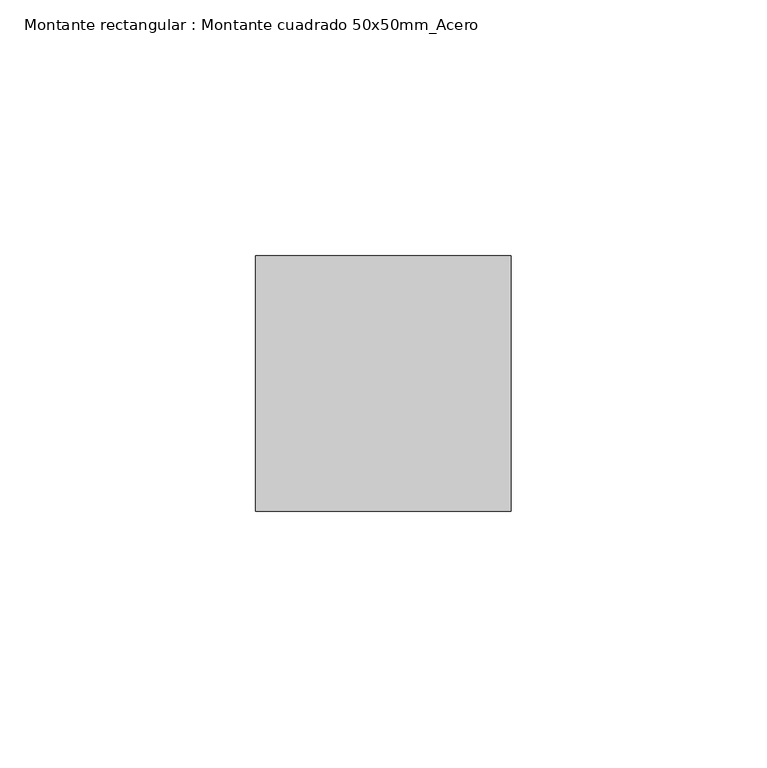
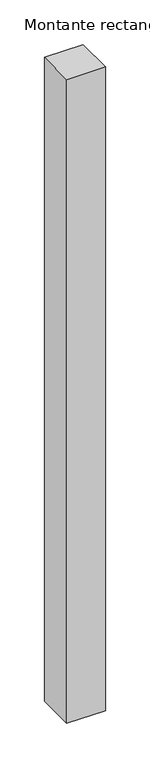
"""IFC4 building model written with IfcOpenShell, lengths in millimetres: member geometry, Montante rectangular : Montante cuadrado 50x50mm_Acero."""

import ifcopenshell
import ifcopenshell.guid

model = None  # the IFC model being written
_history = None  # IfcOwnerHistory: only IFC2X3 demands one
_inside = {}  # id of a spatial element -> (the spatial element, [elements in it])
_under = {}  # id of a project, library or spatial element -> (it, [spatial elements below it])
_declared = {}  # id of a project -> (the project, [libraries it declares])
_typed = {}  # id of a type object -> (the type object, [elements of that type])
_made_of = {}  # id of a material, layer set ... -> (it, [elements and type objects made of it])


def new_model(schema):
    """Start an empty IFC model of exactly this schema.

    Asked for "IFC4X3", IfcOpenShell would pick the latest addendum, in which some entities
    have other attributes; the version numbers below select the first issue.
    IFC2X3 requires an IfcOwnerHistory on every rooted entity: one is made here for all.
    """
    global model, _history
    if schema == "IFC4X3":
        model = ifcopenshell.file(schema_version=(4, 3, 0, 0))
    else:
        model = ifcopenshell.file(schema=schema)
    _inside.clear()
    _under.clear()
    _declared.clear()
    _typed.clear()
    _made_of.clear()
    _history = None
    if model.schema == "IFC2X3":
        org = make("IfcOrganization", Name="unknown")
        user = make(
            "IfcPersonAndOrganization",
            ThePerson=make("IfcPerson", FamilyName="unknown"),
            TheOrganization=org,
        )
        app = make(
            "IfcApplication",
            ApplicationDeveloper=org,
            Version="unknown",
            ApplicationFullName="unknown",
            ApplicationIdentifier="unknown",
        )
        _history = make(
            "IfcOwnerHistory",
            OwningUser=user,
            OwningApplication=app,
            ChangeAction="ADDED",
            CreationDate=0,
        )
    return model


def make(cls, **values):
    """One entity of the class cls with the attributes given. An attribute that is None is left unset."""
    return model.create_entity(
        cls, **{name: value for name, value in values.items() if value is not None}
    )


def rooted(cls, **values):
    """An entity with a GlobalId (a new one), such as an element, a storey or a relation."""
    return make(cls, GlobalId=ifcopenshell.guid.new(), OwnerHistory=_history, **values)


def si_unit(unit_type, name, prefix=None):
    """IfcSIUnit, for example si_unit("LENGTHUNIT", "METRE", prefix="MILLI")."""
    return make("IfcSIUnit", UnitType=unit_type, Prefix=prefix, Name=name)


def assignment(units):
    """IfcUnitAssignment: the units of a project."""
    return None if units is None else make("IfcUnitAssignment", Units=units)


def point(xyz):
    """IfcCartesianPoint."""
    return None if xyz is None else make("IfcCartesianPoint", Coordinates=xyz)


def direction(xyz):
    """IfcDirection."""
    return None if xyz is None else make("IfcDirection", DirectionRatios=xyz)


def frame(location, z_axis=None, x_axis=None):
    """IfcAxis2Placement3D, a coordinate frame: its origin and axes. An axis left out is left unset."""
    return make(
        "IfcAxis2Placement3D",
        Location=point(location),
        Axis=direction(z_axis),
        RefDirection=direction(x_axis),
    )


def origin():
    """The frame at (0, 0, 0) with its axes left unset."""
    return frame((0.0, 0.0, 0.0))


def place(relative_to, where):
    """IfcLocalPlacement: puts the frame where relative to a parent placement (None: the world)."""
    return make(
        "IfcLocalPlacement", PlacementRelTo=relative_to, RelativePlacement=where
    )


def context(
    kind, dimensions, precision=None, world=None, true_north=None, identifier=None
):
    """IfcGeometricRepresentationContext, for example the 3D "Model" context."""
    return make(
        "IfcGeometricRepresentationContext",
        ContextIdentifier=identifier,
        ContextType=kind,
        CoordinateSpaceDimension=dimensions,
        Precision=precision,
        WorldCoordinateSystem=world,
        TrueNorth=true_north,
    )


def project(units=None, contexts=None):
    """IfcProject with its units and contexts."""
    return rooted(
        "IfcProject",
        Name="project",
        RepresentationContexts=contexts,
        UnitsInContext=assignment(units),
    )


def spatial(cls, under=None, at=None, **own):
    """A site, building, storey or space (cls), placed at a placement, below another one or the project."""
    s = rooted(cls, ObjectPlacement=at, **own)
    if under is not None:
        _under.setdefault(under.id(), (under, []))[1].append(s)
    return s


def polyline(points):
    """IfcPolyline through the points."""
    return make("IfcPolyline", Points=[point(p) for p in points])


def outline(outer, holes=None, kind="AREA"):
    """IfcArbitraryClosedProfileDef: a profile drawn as a closed curve; with holes, ...WithVoids."""
    if holes is None:
        return make("IfcArbitraryClosedProfileDef", ProfileType=kind, OuterCurve=outer)
    return make(
        "IfcArbitraryProfileDefWithVoids",
        ProfileType=kind,
        OuterCurve=outer,
        InnerCurves=holes,
    )


def extrude(swept, where, along, depth):
    """IfcExtrudedAreaSolid: the profile swept, set in the frame where, extruded along a direction by depth."""
    return make(
        "IfcExtrudedAreaSolid",
        SweptArea=swept,
        Position=where,
        ExtrudedDirection=direction(along),
        Depth=depth,
    )


def shape(context_of_items, identifier, shape_type, items):
    """IfcShapeRepresentation: the items that make up one representation, for example the "Body"."""
    return make(
        "IfcShapeRepresentation",
        ContextOfItems=context_of_items,
        RepresentationIdentifier=identifier,
        RepresentationType=shape_type,
        Items=items,
    )


def source(mapping_origin, context_of_items, identifier, shape_type, items):
    """IfcRepresentationMap: a shape defined once, which mapped items show again and again."""
    return make(
        "IfcRepresentationMap",
        MappingOrigin=mapping_origin,
        MappedRepresentation=shape(context_of_items, identifier, shape_type, items),
    )


def transform(
    local_origin,
    x_axis=None,
    y_axis=None,
    z_axis=None,
    scale=None,
    scale2=None,
    scale3=None,
    uniform=True,
):
    """IfcCartesianTransformationOperator3D, or its non-uniform kind. x_axis, y_axis, z_axis: its Axis1, 2, 3."""
    if uniform:
        return make(
            "IfcCartesianTransformationOperator3D",
            Axis1=direction(x_axis),
            Axis2=direction(y_axis),
            LocalOrigin=point(local_origin),
            Scale=scale,
            Axis3=direction(z_axis),
        )
    return make(
        "IfcCartesianTransformationOperator3DnonUniform",
        Axis1=direction(x_axis),
        Axis2=direction(y_axis),
        LocalOrigin=point(local_origin),
        Scale=scale,
        Axis3=direction(z_axis),
        Scale2=scale2,
        Scale3=scale3,
    )


def mapped(mapping_source, mapping_target):
    """IfcMappedItem: shows the shape of a source again, moved by a transform."""
    return make(
        "IfcMappedItem", MappingSource=mapping_source, MappingTarget=mapping_target
    )


def made_of(thing, what):
    """Note that an element or type object is made of a material, layer set ...; save() writes the relation."""
    if what is not None:
        _made_of.setdefault(what.id(), (what, []))[1].append(thing)
    return thing


def element(
    cls,
    number,
    at=None,
    inside=None,
    cuts=None,
    type_object=None,
    material=None,
    context=None,
    identifier="Body",
    shape_type=None,
    held_by="IfcProductDefinitionShape",
    body=None,
    shapes=None,
    **own,
):
    """One element of the class cls, such as IfcWall. Its Tag is "e" and its number.

    at: its placement. inside: the storey or other place that contains it. cuts: it is an
    opening in that element (IfcRelVoidsElement). A single representation is given by context,
    identifier, shape_type and body (its items); several are given by shapes. held_by: the class
    of the entity that holds the representations. save() writes the other relations.
    """
    e = rooted(cls, Tag="e%d" % number, ObjectPlacement=at, **own)
    if body is not None:
        shapes = [shape(context, identifier, shape_type, body)]
    if shapes is not None:
        e.Representation = make(held_by, Representations=shapes)
    if inside is not None:
        _inside.setdefault(inside.id(), (inside, []))[1].append(e)
    if cuts is not None:
        rooted(
            "IfcRelVoidsElement", RelatingBuildingElement=cuts, RelatedOpeningElement=e
        )
    if type_object is not None:
        _typed.setdefault(type_object.id(), (type_object, []))[1].append(e)
    return made_of(e, material)


def aggregate(whole, parts):
    """IfcRelAggregates: a whole, such as a stair, and the parts it consists of."""
    return rooted("IfcRelAggregates", RelatingObject=whole, RelatedObjects=parts)


def save(model, path):
    """Write the relations noted so far, then the file.

    IfcRelAggregates (storeys below a building ...), IfcRelContainedInSpatialStructure (elements
    in a storey), IfcRelDefinesByType, IfcRelAssociatesMaterial and IfcRelDeclares: one each for
    every whole, place, type object, material and project.
    """
    for whole, parts in _under.values():
        aggregate(whole, parts)
    for where, things in _inside.values():
        rooted(
            "IfcRelContainedInSpatialStructure",
            RelatedElements=things,
            RelatingStructure=where,
        )
    for kind, things in _typed.values():
        rooted("IfcRelDefinesByType", RelatedObjects=things, RelatingType=kind)
    for what, things in _made_of.values():
        rooted("IfcRelAssociatesMaterial", RelatedObjects=things, RelatingMaterial=what)
    for by, libraries in _declared.values():
        rooted("IfcRelDeclares", RelatingContext=by, RelatedDefinitions=libraries)
    model.write(path)


def montante_rectangular_montante_cuadrado_50x50mm_acero_583be070(model_context):
    return source(origin(), model_context, "Body", "SweptSolid", [
        extrude(outline(polyline([(0.0, 0.0), (-50.0, 0.0), (-50.0, 50.0), (0.0, 50.0), (0.0, 0.0)])), frame((0.0, 0.0, -880.0), z_axis=(0.0, 0.0, 1.0), x_axis=(1.0, 0.0, 0.0)), (0.0, 0.0, 1.0), 880.0),
    ])


if __name__ == "__main__":
    model = new_model("IFC4")
    model_context = context("Model", 3, world=origin())
    ifc_project = project(units=[si_unit("LENGTHUNIT", "METRE", prefix="MILLI")], contexts=[model_context])
    site = spatial("IfcSite", under=ifc_project)
    building = spatial("IfcBuilding", under=site)
    placement = place(None, origin())
    montante_rectangular_montante_cuadrado_50x50mm_acero_shape = montante_rectangular_montante_cuadrado_50x50mm_acero_583be070(model_context)
    element("IfcMember", 1, ObjectType="Montante rectangular : Montante cuadrado 50x50mm_Acero", at=placement, inside=building, context=model_context, shape_type="MappedRepresentation", body=[
        mapped(montante_rectangular_montante_cuadrado_50x50mm_acero_shape, transform((0.0, 0.0, 0.0), x_axis=(1.0, 0.0, 0.0), y_axis=(0.0, 1.0, 0.0), z_axis=(0.0, 0.0, 1.0))),
    ])
    save(model, "model.ifc")
